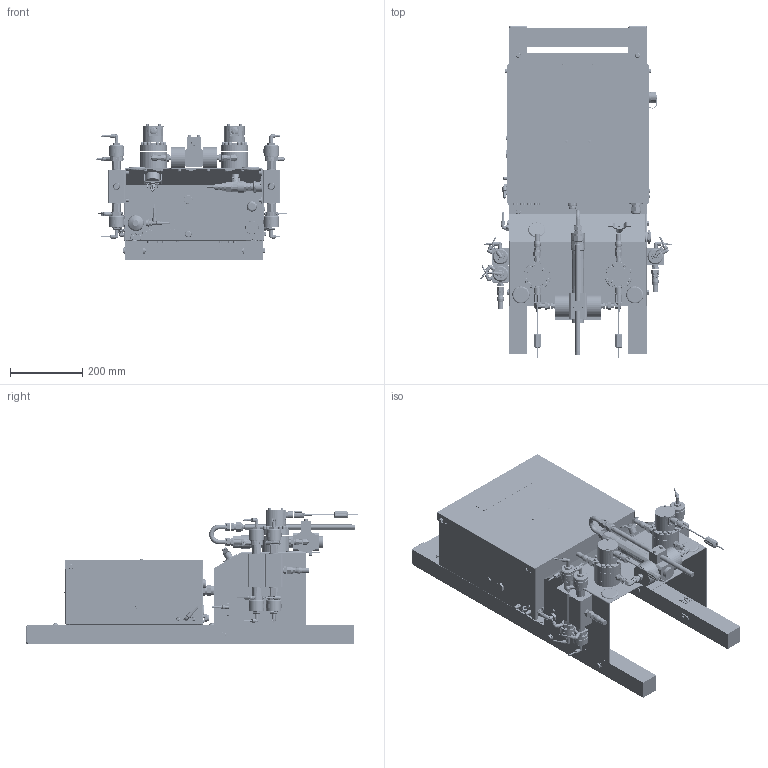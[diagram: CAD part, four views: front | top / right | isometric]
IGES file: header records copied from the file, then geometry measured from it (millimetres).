
Start section:  PTC IGES file: 24f084-en-t.igs
Global section: file name: 24f084-en-t.igs; native system: Creo Parametric by PTC Inc.; preprocessor: 2019030; author: qusrh3; organization: Unknown; date: 20200305.072911; units: inch
Bounding box: 529.13 x 918.81 x 375.48 mm (x, y, z)
Surface area: 3345369.7 mm2 (no closed solid volume)
Topology: 0 solids, 0 shells, 6333 faces, 31768 edges, 31748 vertices
Faces by surface type: bspline 3184, revolution 3128, extrusion 21
